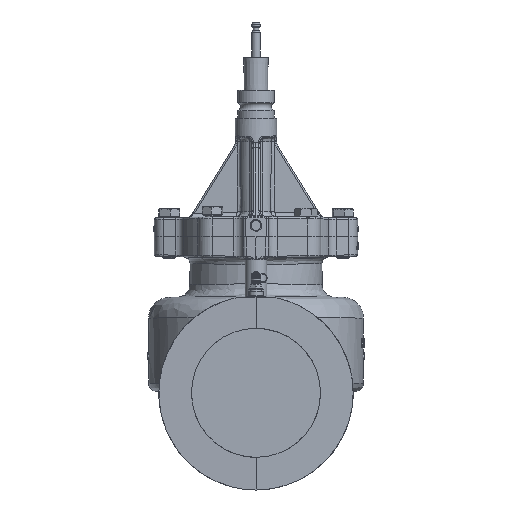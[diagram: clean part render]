
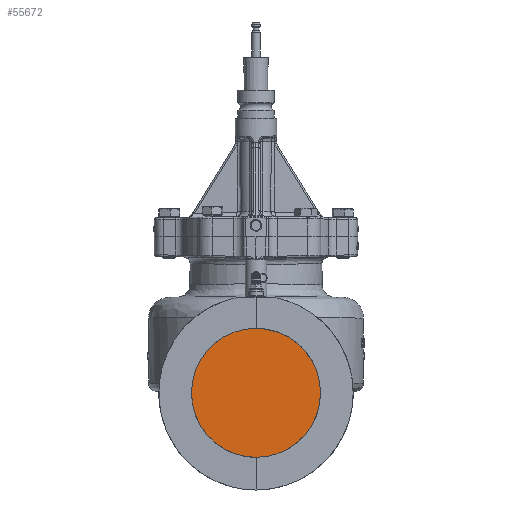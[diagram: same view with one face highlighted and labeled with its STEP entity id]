
A CAD part, left-side view. The second image highlights one B-rep face of the part: STEP entity #55672.
In plain terms, the highlighted planar face has unit normal (-1, 0, 0).
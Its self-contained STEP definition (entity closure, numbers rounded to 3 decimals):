
#5925=FACE_OUTER_BOUND($,#9097,.T.);
#9097=EDGE_LOOP($,(#40676));
#11460=CIRCLE($,#58332,78.);
#22757=VERTEX_POINT($,#86054);
#29168=EDGE_CURVE($,#22757,#22757,#11460,.T.);
#40676=ORIENTED_EDGE($,*,*,#29168,.F.);
#50644=PLANE($,#58331);
#55672=ADVANCED_FACE($,(#5925),#50644,.F.);
#58331=AXIS2_PLACEMENT_3D($,#86053,#65008,#65009);
#58332=AXIS2_PLACEMENT_3D($,#86055,#65010,#65011);
#65008=DIRECTION('center_axis',(1.,0.,0.));
#65009=DIRECTION('ref_axis',(0.,0.,-1.));
#65010=DIRECTION('center_axis',(1.,0.,0.));
#65011=DIRECTION('ref_axis',(0.,0.,1.));
#86053=CARTESIAN_POINT('Origin',(-187.,0.,0.));
#86054=CARTESIAN_POINT('',(-187.,0.,-78.));
#86055=CARTESIAN_POINT('Origin',(-187.,0.,0.));
